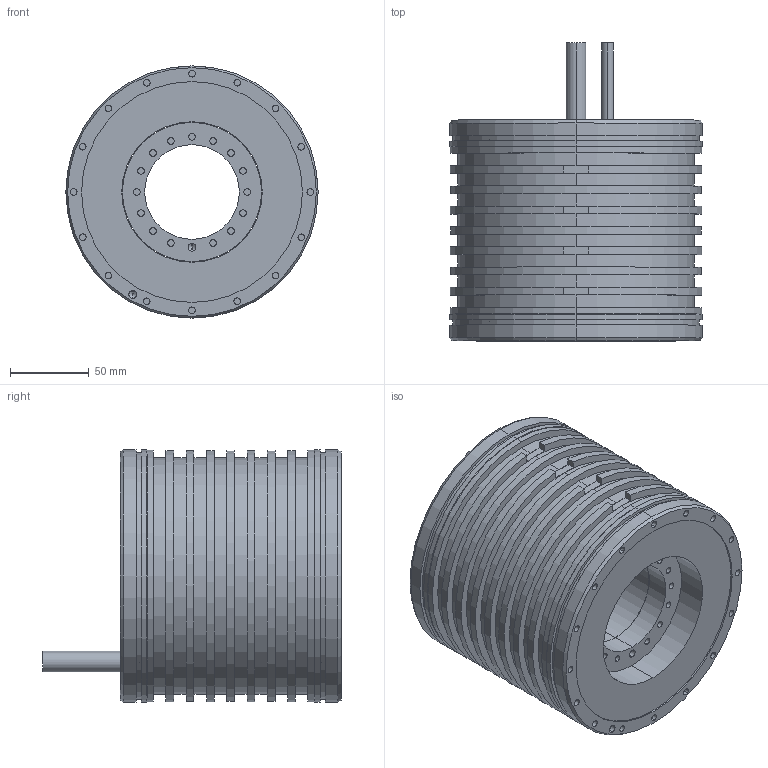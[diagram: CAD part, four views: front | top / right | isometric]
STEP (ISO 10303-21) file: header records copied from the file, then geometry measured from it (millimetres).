
FILE_DESCRIPTION (( 'STEP AP203' ), '1' );
FILE_NAME ('TM-2-1A.STEP', '2020-10-20T05:32:30', ( '' ), ( '' ), 'SwSTEP 2.0', 'SolidWorks 2015', '' );
FILE_SCHEMA (( 'CONFIG_CONTROL_DESIGN' ));
Length unit declared in the file: millimetre
Products named in the file (3): TM-2-1X_rotor_TM-2-1A_rotor; TM-2-1A; TM-2-1X_stator_TM-2-1A_stator
Assembly tree (2 placements, depth 2):
  TM-2-1A
    TM-2-1X_stator_TM-2-1A_stator
    TM-2-1X_rotor_TM-2-1A_rotor
Bounding box: 160 x 189 x 160 mm (x, y, z)
Volume: 2080193.8 mm3; surface area: 242984.2 mm2
Topology: 2 solids, 2 shells, 322 faces, 684 edges, 436 vertices
Faces by surface type: cylinder 193, plane 113, cone 16
Entity records: 9051 total; most frequent: DIRECTION 1720, CARTESIAN_POINT 1439, ORIENTED_EDGE 1352, AXIS2_PLACEMENT_3D 717, EDGE_CURVE 676, VERTEX_POINT 436, EDGE_LOOP 404, CIRCLE 390
